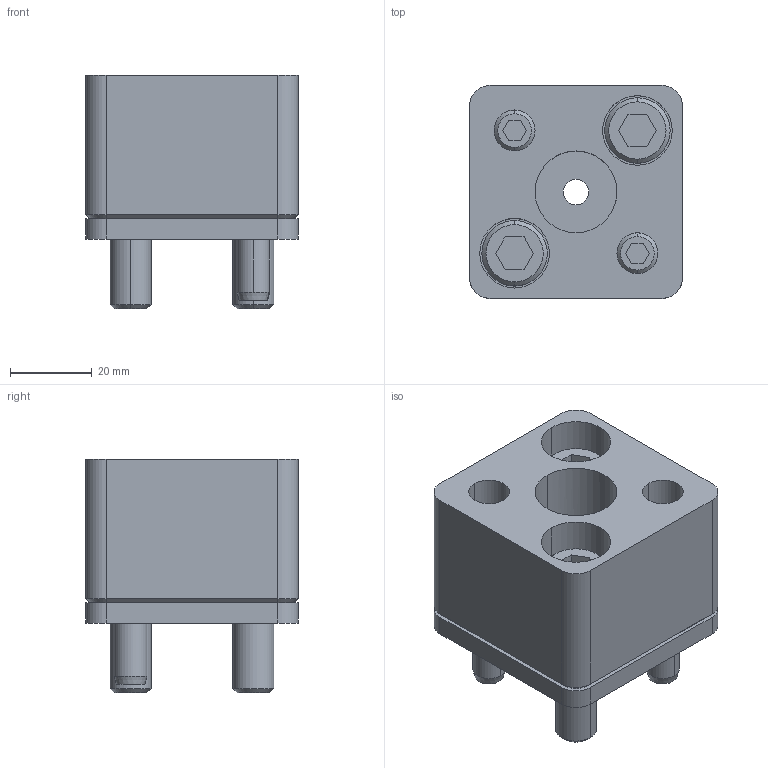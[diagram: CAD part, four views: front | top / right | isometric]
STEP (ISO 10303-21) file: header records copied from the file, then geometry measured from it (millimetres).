
FILE_DESCRIPTION(/* description */ (''),/* implementation_level */ '2;1');
FILE_NAME(/* name */ '3d_hsa-fp20_04189_r00.stp',/* time_stamp */ '2011-01-10T14:14:36+09:00',/* author */ ('MISUMI'),/* organization */ (''),/* preprocessor_version */ 'ST-DEVELOPER v11',/* originating_system */ 'UGS - NX 5.0',/* authorisation */ '');
FILE_SCHEMA (('CONFIG_CONTROL_DESIGN'));
Length unit declared in the file: millimetre
Products named in the file (1): 3d_hsa-fp20_04189_r00
Bounding box: 52 x 52 x 57 mm (x, y, z)
Volume: 90277 mm3; surface area: 32238.2 mm2
Topology: 8 solids, 8 shells, 167 faces, 380 edges, 243 vertices
Faces by surface type: plane 72, cylinder 65, cone 30
Entity records: 4856 total; most frequent: DIRECTION 866, CARTESIAN_POINT 850, ORIENTED_EDGE 760, EDGE_CURVE 380, AXIS2_PLACEMENT_3D 329, VERTEX_POINT 243, LINE 208, VECTOR 208
